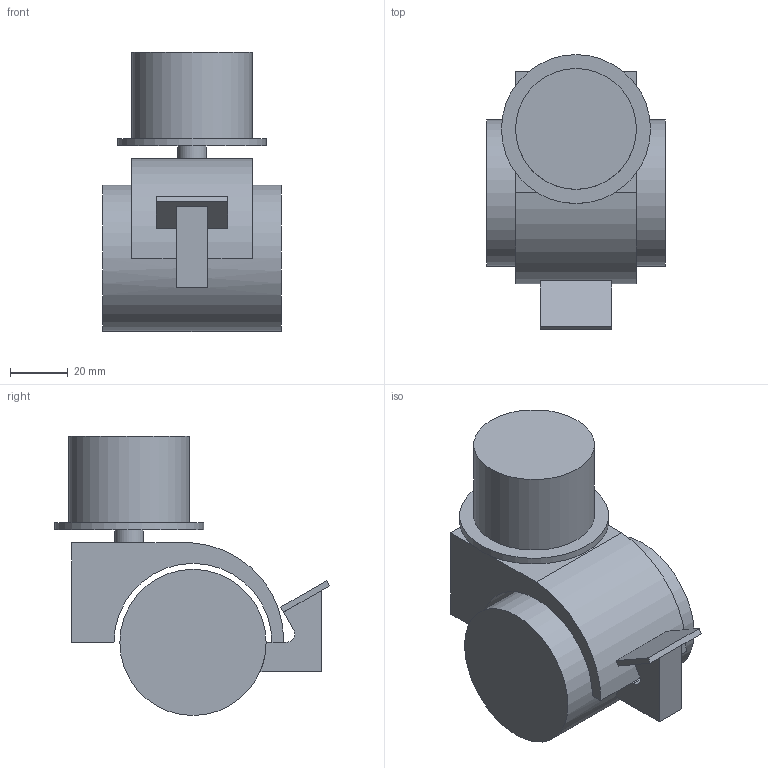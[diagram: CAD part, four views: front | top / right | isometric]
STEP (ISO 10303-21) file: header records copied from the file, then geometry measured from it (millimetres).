
FILE_DESCRIPTION( ( 'STEP AP214' ), '1' );
FILE_NAME( 'D:/Yug/2021/Delta/desk_and_office_organisation/QC/70201.stp', '2021-01-19T12:43:56', ( '' ), ( '' ), ' ', 'PARTsolutions', ' ' );
FILE_SCHEMA( ( 'AUTOMOTIVE_DESIGN { 1 0 10303 214 1 1 1 1 }' ) );
Length unit declared in the file: millimetre
Products named in the file (1): _70201
Bounding box: 62 x 95.53 x 97 mm (x, y, z)
Volume: 225052.3 mm3; surface area: 36795.7 mm2
Topology: 1 solids, 1 shells, 31 faces, 71 edges, 46 vertices
Faces by surface type: plane 24, cylinder 7
Full cylindrical faces by diameter (mm): 10 x1, 42 x1, 50.84 x1, 51.8 x1
Entity records: 1113 total; most frequent: DIRECTION 147, CARTESIAN_POINT 145, ORIENTED_EDGE 134, EDGE_CURVE 67, LINE 51, VECTOR 51, AXIS2_PLACEMENT_3D 48, VERTEX_POINT 46
